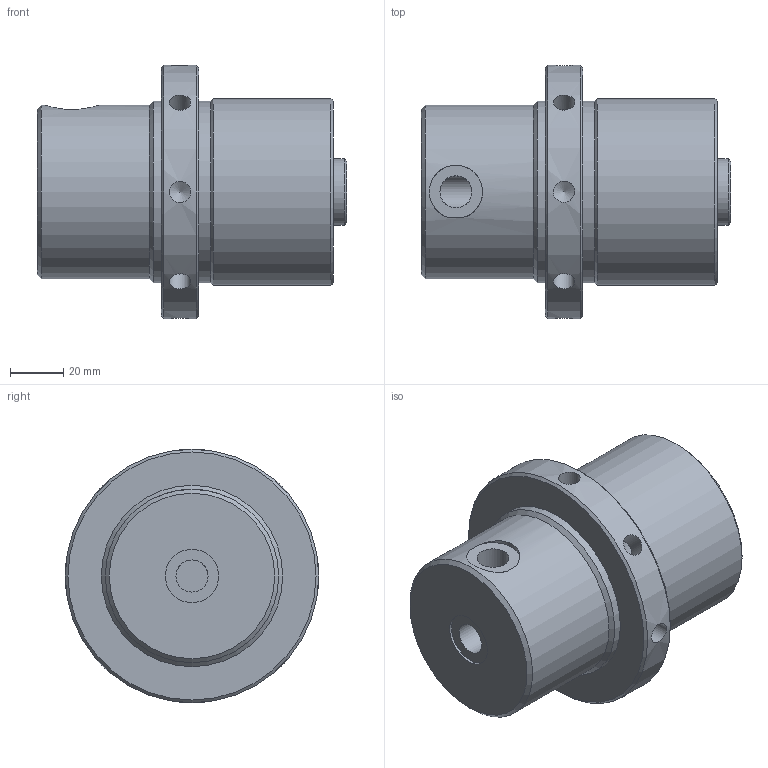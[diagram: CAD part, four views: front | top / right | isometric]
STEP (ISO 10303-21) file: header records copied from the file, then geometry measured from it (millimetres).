
FILE_DESCRIPTION( ( 'Unknown' ), '1' );
FILE_NAME( 'F:/JAKOB-STEP+IGES-Dateien/STEP-Dateien/ZSF/ZSF 2500.stp', 'Unknown', ( 'Unknown' ), ( 'Unknown' ), 'XStep 1.0', 'Unknown', ' ' );
FILE_SCHEMA( ( 'CONFIG_CONTROL_DESIGN' ) );
Length unit declared in the file: millimetre
Products named in the file (1): 1
Bounding box: 116 x 95 x 95 mm (x, y, z)
Volume: 431816.1 mm3; surface area: 44148.2 mm2
Topology: 1 solids, 1 shells, 46 faces, 115 edges, 74 vertices
Faces by surface type: cylinder 20, cone 18, plane 8
Full cylindrical faces by diameter (mm): 8 x8, 12 x2, 16.5 x1, 20 x1, 25 x1, 65 x1, 68 x2, 70 x1, 95 x1
Entity records: 1604 total; most frequent: CARTESIAN_POINT 750, DIRECTION 172, ORIENTED_EDGE 100, EDGE_LOOP 90, AXIS2_PLACEMENT_3D 85, FACE_OUTER_BOUND 64, VERTEX_POINT 57, EDGE_CURVE 50
